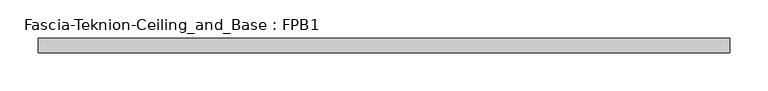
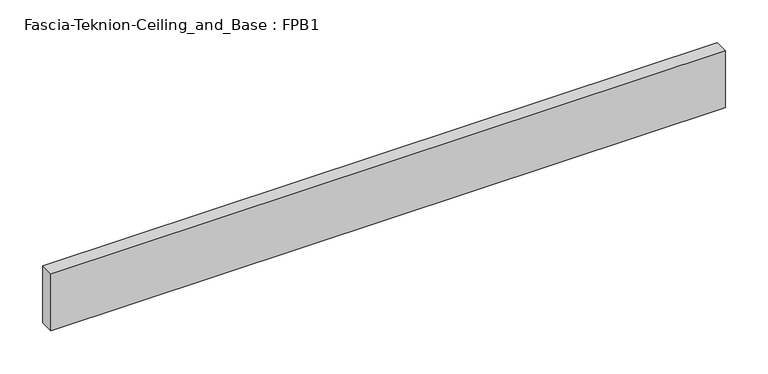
"""IFC4 building model written with IfcOpenShell, lengths in millimetres: proxy geometry, Fascia-Teknion-Ceiling_and_Base : FPB1."""

from ifc_helpers import new_model, si_unit, origin, origin_with_axes, place, context, project, spatial, polyline, outline, extrude, source, transform, mapped, element, save


def fascia_teknion_ceiling_and_base_fpb1_8e12d95e(model_context):
    return source(origin(), model_context, "Body", "SweptSolid", [
        extrude(outline(polyline([(454.6147563, 0.0), (-454.6147562, 0.0), (-454.6147562, 19.05), (454.6147563, 19.05), (454.6147563, 0.0)])), origin_with_axes(), (0.0, 0.0, 1.0), 81.28),
    ])


if __name__ == "__main__":
    model = new_model("IFC4")
    model_context = context("Model", 3, world=origin())
    ifc_project = project(units=[si_unit("LENGTHUNIT", "METRE", prefix="MILLI")], contexts=[model_context])
    site = spatial("IfcSite", under=ifc_project)
    building = spatial("IfcBuilding", under=site)
    placement = place(None, origin())
    fascia_teknion_ceiling_and_base_fpb1_shape = fascia_teknion_ceiling_and_base_fpb1_8e12d95e(model_context)
    element("IfcBuildingElementProxy", 1, Name="Fascia-Teknion-Ceiling_and_Base : FPB1", ObjectType="Fascia-Teknion-Ceiling_and_Base : FPB1", at=placement, inside=building, context=model_context, shape_type="MappedRepresentation", body=[
        mapped(fascia_teknion_ceiling_and_base_fpb1_shape, transform((0.0, 0.0, 0.0), x_axis=(1.0, 0.0, 0.0), y_axis=(0.0, 1.0, 0.0), z_axis=(0.0, 0.0, 1.0))),
    ])
    save(model, "model.ifc")
